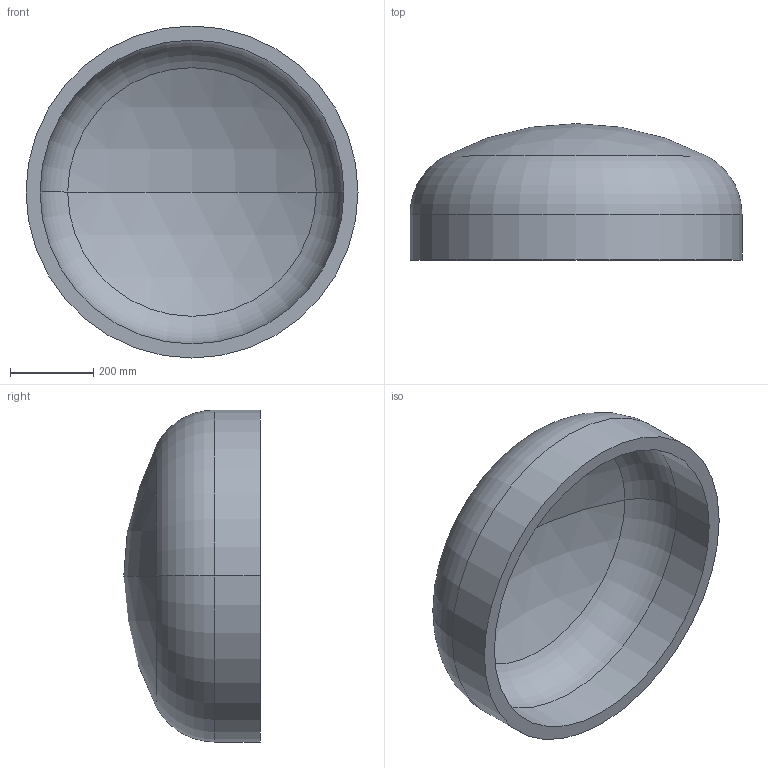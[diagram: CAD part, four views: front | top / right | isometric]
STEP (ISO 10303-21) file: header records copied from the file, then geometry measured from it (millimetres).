
FILE_DESCRIPTION (( 'STEP AP203' ), '1' );
FILE_NAME ('DIN 28013 Korbbogenform_-_Boden DIN 28013 - 800 x 110 - I - s=34.step', '2016-07-01T08:15:43', ( '' ), ( '' ), 'SwSTEP 2.0', 'SolidWorks 2013', '' );
FILE_SCHEMA (( 'CONFIG_CONTROL_DESIGN' ));
Length unit declared in the file: millimetre
Products named in the file (1): DIN 28013 Korbbogenform_-_Boden DIN 28013 - 800 x 110 - I - s=34
Bounding box: 800 x 328.87 x 800 mm (x, y, z)
Volume: 31470889 mm3; surface area: 1935469.1 mm2
Topology: 1 solids, 1 shells, 13 faces, 24 edges, 14 vertices
Faces by surface type: torus 4, cylinder 4, sphere 4, plane 1
Entity records: 407 total; most frequent: DIRECTION 72, CARTESIAN_POINT 52, ORIENTED_EDGE 48, AXIS2_PLACEMENT_3D 34, EDGE_CURVE 24, CIRCLE 20, EDGE_LOOP 14, VERTEX_POINT 14
